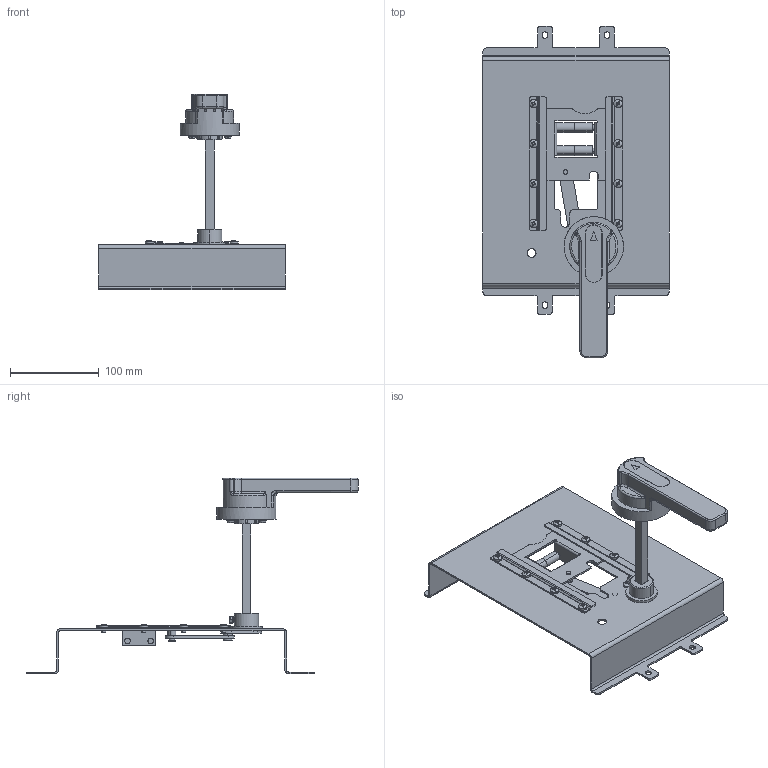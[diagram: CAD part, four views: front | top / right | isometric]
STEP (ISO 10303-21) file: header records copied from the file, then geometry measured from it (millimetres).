
FILE_DESCRIPTION(/* description */ (''),/* implementation_level */ '2;1');
FILE_NAME(/* name */ '21000.stp',/* time_stamp */ '2025-09-18T14:50:05+08:00',/* author */ (''),/* organization */ (''),/* preprocessor_version */ 'ST-DEVELOPER v11',/* originating_system */ 'SIEMENS UGS NX 6.0',/* authorisation */ '');
FILE_SCHEMA (('CONFIG_CONTROL_DESIGN'));
Length unit declared in the file: millimetre
Products named in the file (1): pcD6B7rbsb
Bounding box: 210 x 373.8 x 220.2 mm (x, y, z)
Volume: 351067.4 mm3; surface area: 245701.4 mm2
Topology: 28 solids, 29 shells, 1005 faces, 2530 edges, 1610 vertices
Faces by surface type: plane 587, cylinder 327, cone 41, sphere 19, bspline 18, torus 13
Full cylindrical faces by diameter (mm): 3.8 x2, 7.942 x2, 27 x1, 67 x1
Entity records: 32749 total; most frequent: CARTESIAN_POINT 8089, DIRECTION 5248, ORIENTED_EDGE 5008, EDGE_CURVE 2504, AXIS2_PLACEMENT_3D 1872, VERTEX_POINT 1603, LINE 1504, VECTOR 1504
